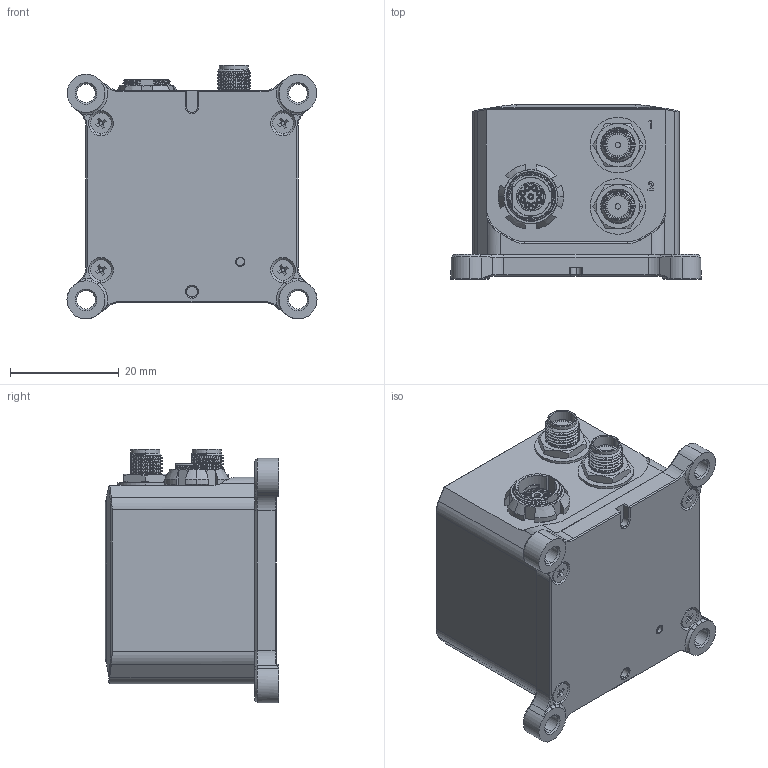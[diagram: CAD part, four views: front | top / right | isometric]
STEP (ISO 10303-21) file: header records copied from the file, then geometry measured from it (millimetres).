
FILE_DESCRIPTION (( 'STEP AP214' ), '1' );
FILE_NAME ('IGNG-D-Box-V3-2-NN.STEP', '2020-04-17T11:14:02', ( '' ), ( '' ), 'SwSTEP 2.0', 'SolidWorks 2020', '' );
FILE_SCHEMA (( 'AUTOMOTIVE_DESIGN' ));
Length unit declared in the file: millimetre
Products named in the file (1): IGNG-D-Box-V3-2-NN
Bounding box: 46 x 32 x 46.69 mm (x, y, z)
Surface area: 10878.9 mm2 (no closed solid volume)
Topology: 0 solids, 19 shells, 962 faces, 3277 edges, 2291 vertices
Faces by surface type: plane 429, cylinder 190, bspline 188, cone 133, torus 22
Entity records: 58115 total; most frequent: CARTESIAN_POINT 21895, ORIENTED_EDGE 5444, DIRECTION 4358, EDGE_CURVE 3269, VERTEX_POINT 2291, VECTOR 1590, LINE 1590, AXIS2_PLACEMENT_3D 1384
